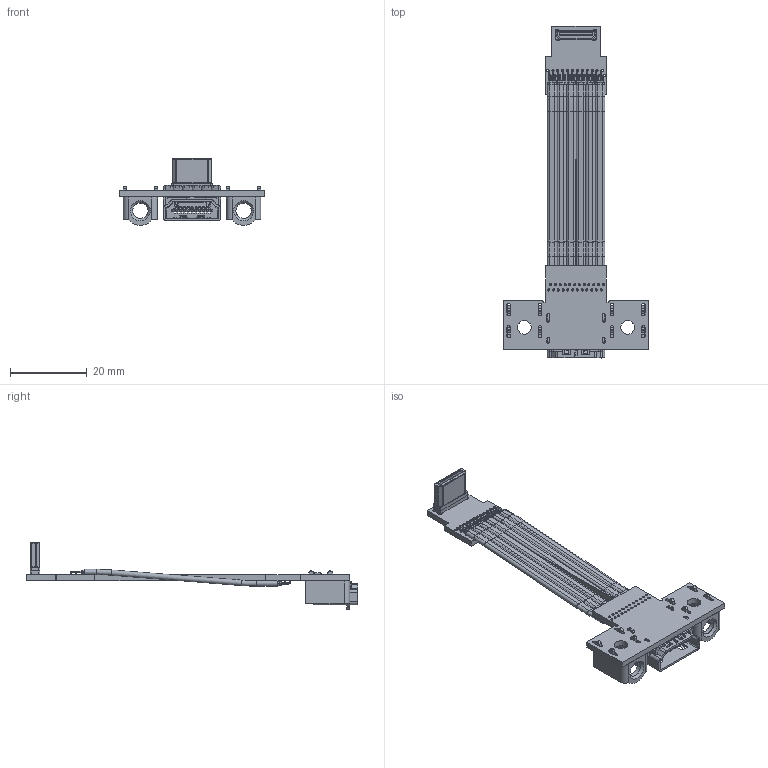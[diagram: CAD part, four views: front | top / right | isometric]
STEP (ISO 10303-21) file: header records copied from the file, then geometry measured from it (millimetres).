
FILE_DESCRIPTION(('Open CASCADE Model'),'2;1');
FILE_NAME('Open CASCADE Shape Model','2022-06-08T21:02:04',('Author'),( 'Open CASCADE'),'Open CASCADE STEP processor 6.8','Open CASCADE 6.8' ,'Unknown');
FILE_SCHEMA(('AUTOMOTIVE_DESIGN { 1 0 10303 214 1 1 1 1 }'));
Length unit declared in the file: millimetre
Products named in the file (91): PCB; Board; Open CASCADE STEP translator 6.8 6.1.1; _1; 471510001_hdmi_female; H1; PCB-M4; H2; Open CASCADE STEP translator 6.8 6.5; miniHDMI-p_RGB10275833; HDMI_type_C1; Free-Models; s_shape_Cable20210812(2)
Assembly tree (92 placements, depth 3):
  PCB
    Board
      Open CASCADE STEP translator 6.8 6.1.1
    _1
      471510001_hdmi_female
    H1
      PCB-M4
    H2
      PCB-M4
    Open CASCADE STEP translator 6.8 6.5
      miniHDMI-p_RGB10275833  x2
      HDMI_type_C1
    Free-Models
      s_shape_Cable20210812(2)
      s_shape_Cable20210812(2)
      s_shape_Cable20210812(2)
      s_shape_Cable20210812(2)
      s_shape_Cable20210812(2)
      s_shape_Cable20210812(2)
      s_shape_Cable20210812(2)
      s_shape_Cable20210812(2)
      s_shape_Cable20210812(2)
      s_shape_Cable20210812(2)
      s_shape_Cable20210812(2)
      s_shape_Cable20210812(2)
      s_shape_Cable20210812(2)
      s_shape_Cable20210812(2)
      s_shape_Cable20210812(2)
      s_shape_Cable20210812(2)
      s_shape_Cable20210812(2)
      s_shape_Cable20210812(2)
      s_shape_Cable20210812(2)
      s_shape_Cable20210812(2)
      s_shape_Cable20210812(2)
      s_shape_Cable20210812(2)
      s_shape_Cable20210812(2)
      s_shape_Cable20210812(2)
      s_shape_Cable20210812(2)
      s_shape_Cable20210812(2)
      s_shape_Cable20210812(2)
      s_shape_Cable20210812(2)
      s_shape_Cable20210812(2)
      s_shape_Cable20210812(2)
      s_shape_Cable20210812(2)
      s_shape_Cable20210812(2)
      s_shape_Cable20210812(2)
      s_shape_Cable20210812(2)
      s_shape_Cable20210812(2)
      s_shape_Cable20210812(2)
      s_shape_Cable20210812(2)
      s_shape_Cable20210812(2)
      s_shape_Cable20210812(2)
      s_shape_Cable20210812(2)
      s_shape_Cable20210812(2)
      s_shape_Cable20210812(2)
      s_shape_Cable20210812(2)
      s_shape_Cable20210812(2)
      s_shape_Cable20210812(2)
      s_shape_Cable20210812(2)
      s_shape_Cable20210812(2)
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Bounding box: 38 x 86.79 x 17.43 mm (x, y, z)
Volume: 3083.9 mm3; surface area: 14986.1 mm2
Topology: 86 solids, 86 shells, 2945 faces, 7682 edges, 4865 vertices
Faces by surface type: plane 1487, cylinder 1094, torus 362, cone 2
Full cylindrical faces by diameter (mm): 0.4 x10, 0.55 x24, 0.58 x24, 1.1 x2, 1.4 x2, 3.6 x2, 4 x2, 4.4 x2
Entity records: 107169 total; most frequent: DIRECTION 16147, CARTESIAN_POINT 15614, ORIENTED_EDGE 15046, EDGE_CURVE 7523, AXIS2_PLACEMENT_3D 5720, VERTEX_POINT 4761, LINE 4707, VECTOR 4707
